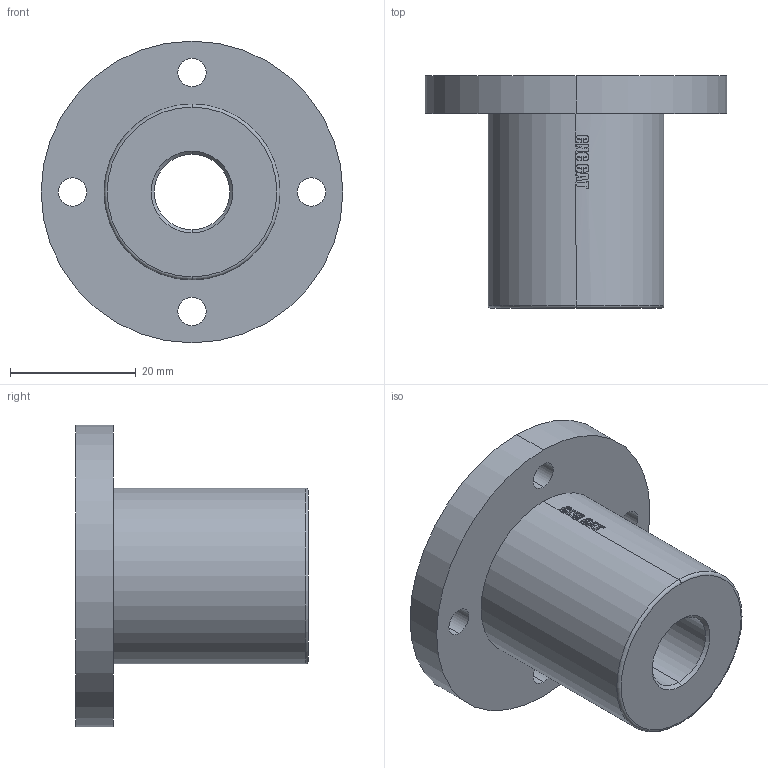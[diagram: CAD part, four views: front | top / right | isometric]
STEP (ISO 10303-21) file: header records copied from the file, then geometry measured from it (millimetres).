
FILE_DESCRIPTION (( 'STEP AP203' ), '1' );
FILE_NAME ('LMF16UU.STEP', '2017-08-10T13:18:10', ( '' ), ( '' ), 'SwSTEP 2.0', 'SolidWorks 2017', '' );
FILE_SCHEMA (( 'CONFIG_CONTROL_DESIGN' ));
Length unit declared in the file: millimetre
Products named in the file (1): LMF16UU
Bounding box: 48 x 37 x 48 mm (x, y, z)
Volume: 25366.6 mm3; surface area: 8617.1 mm2
Topology: 1 solids, 1 shells, 110 faces, 304 edges, 198 vertices
Faces by surface type: plane 48, bspline 32, cylinder 26, cone 2, torus 2
Entity records: 7297 total; most frequent: CARTESIAN_POINT 4661, ORIENTED_EDGE 608, DIRECTION 421, EDGE_CURVE 304, VERTEX_POINT 198, AXIS2_PLACEMENT_3D 165, B_SPLINE_CURVE_WITH_KNOTS 127, EDGE_LOOP 122
